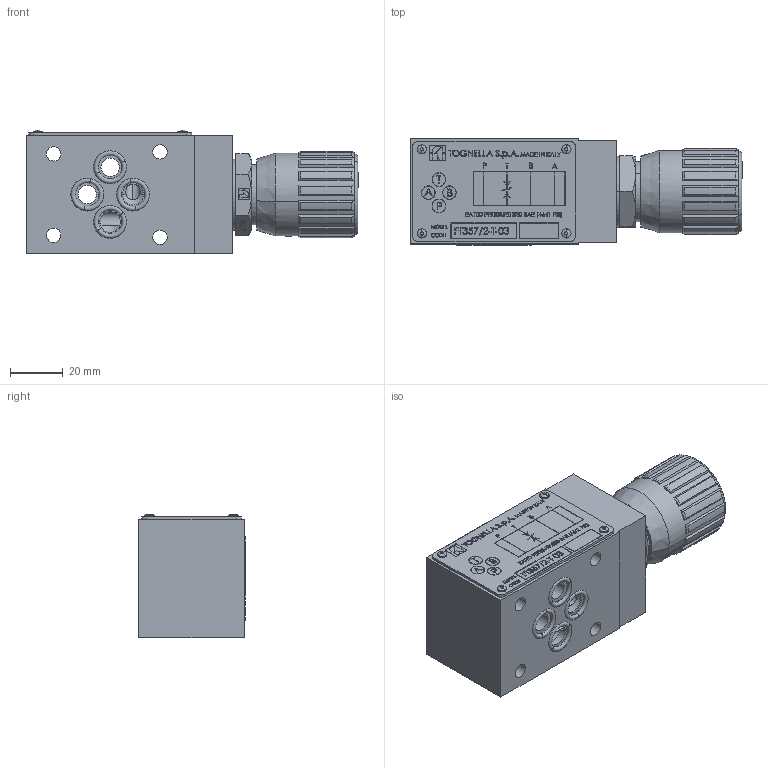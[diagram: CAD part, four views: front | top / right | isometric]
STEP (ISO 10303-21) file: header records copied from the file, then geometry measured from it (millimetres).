
FILE_DESCRIPTION (( 'STEP AP214' ), '1' );
FILE_NAME ('FT357-2-T-03.STEP', '2014-06-16T14:08:35', ( '' ), ( '' ), 'SwSTEP 2.0', 'SolidWorks 2014', '' );
FILE_SCHEMA (( 'AUTOMOTIVE_DESIGN' ));
Length unit declared in the file: millimetre
Products named in the file (15): RivettoTarga; OR3068; OR2037; TappoKoenig; 357-2-T015000; FT267_2-38; OR2050; AnelloFT267_2-38; GranoFT267_2-38_Tipo14; DiscoFascetta267_2-38; CappuccioFT267_2-38_Tipo38; Volantino267_2-38_Tipo38; CorpoValvolaFT267_2-38; 357-6-T001000; FT357-2-T-03
Assembly tree (22 placements, depth 3):
  FT357-2-T-03
    357-6-T001000
    FT267_2-38
      CorpoValvolaFT267_2-38
      Volantino267_2-38_Tipo38
      CappuccioFT267_2-38_Tipo38
      DiscoFascetta267_2-38
      GranoFT267_2-38_Tipo14
      AnelloFT267_2-38  x2
      OR2050
    357-2-T015000
    TappoKoenig  x2
    OR2037  x4
    OR3068
    RivettoTarga  x4
Bounding box: 126.3 x 40.38 x 46.96 mm (x, y, z)
Volume: 156155.7 mm3; surface area: 50900.6 mm2
Topology: 21 solids, 21 shells, 1987 faces, 5135 edges, 3366 vertices
Faces by surface type: plane 1173, bspline 423, cylinder 227, cone 118, torus 42, sphere 4
Entity records: 98860 total; most frequent: CARTESIAN_POINT 38213, ORIENTED_EDGE 10006, DIRECTION 7595, EDGE_CURVE 5003, VECTOR 3437, LINE 3437, VERTEX_POINT 3297, EDGE_LOOP 2170
